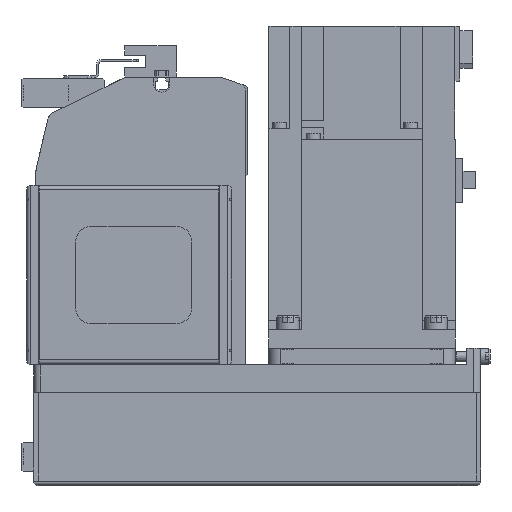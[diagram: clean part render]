
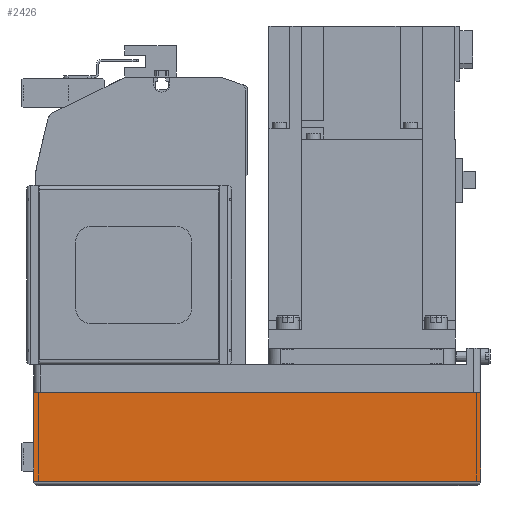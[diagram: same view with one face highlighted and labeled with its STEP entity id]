
A CAD part, left-side view. The second image highlights one B-rep face of the part: STEP entity #2426.
In plain terms, the highlighted planar face has unit normal (-1, 0, 0) as drawn and (0, 1, 0) by its records, which use the part's own axes.
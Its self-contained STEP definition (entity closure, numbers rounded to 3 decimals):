
#2426 = ADVANCED_FACE( '', ( #5383 ), #5384, .T. );
#5383 = FACE_OUTER_BOUND( '', #8877, .T. );
#5384 = PLANE( '', #8878 );
#8877 = EDGE_LOOP( '', ( #15884, #15885, #15886, #15887 ) );
#8878 = AXIS2_PLACEMENT_3D( '', #15888, #15889, #15890 );
#15884 = ORIENTED_EDGE( '', *, *, #22284, .F. );
#15885 = ORIENTED_EDGE( '', *, *, #22266, .F. );
#15886 = ORIENTED_EDGE( '', *, *, #21133, .T. );
#15887 = ORIENTED_EDGE( '', *, *, #21336, .T. );
#15888 = CARTESIAN_POINT( '', ( -192., 40., -50. ) );
#15889 = DIRECTION( '', ( 0., 1., 0. ) );
#15890 = DIRECTION( '', ( 0., 0., 1. ) );
#21133 = EDGE_CURVE( '', #25780, #25782, #25784, .T. );
#21336 = EDGE_CURVE( '', #25782, #26104, #26106, .T. );
#22266 = EDGE_CURVE( '', #25780, #23373, #27468, .T. );
#22284 = EDGE_CURVE( '', #23373, #26104, #27494, .T. );
#23373 = VERTEX_POINT( '', #28783 );
#25780 = VERTEX_POINT( '', #32338 );
#25782 = VERTEX_POINT( '', #32341 );
#25784 = LINE( '', #32344, #32345 );
#26104 = VERTEX_POINT( '', #33004 );
#26106 = LINE( '', #33007, #33008 );
#27468 = LINE( '', #35159, #35160 );
#27494 = LINE( '', #35196, #35197 );
#28783 = CARTESIAN_POINT( '', ( 0., 40., -50. ) );
#32338 = CARTESIAN_POINT( '', ( -192., 40., -50. ) );
#32341 = CARTESIAN_POINT( '', ( -192., 40., -12.1 ) );
#32344 = CARTESIAN_POINT( '', ( -192., 40., -50. ) );
#32345 = VECTOR( '', #38787, 1000. );
#33004 = CARTESIAN_POINT( '', ( 0., 40., -12.1 ) );
#33007 = CARTESIAN_POINT( '', ( -192., 40., -12.1 ) );
#33008 = VECTOR( '', #39028, 1000. );
#35159 = CARTESIAN_POINT( '', ( -192., 40., -50. ) );
#35160 = VECTOR( '', #40197, 1000. );
#35196 = CARTESIAN_POINT( '', ( 0., 40., -50. ) );
#35197 = VECTOR( '', #40221, 1000. );
#38787 = DIRECTION( '', ( 0., 0., 1. ) );
#39028 = DIRECTION( '', ( 1., 0., 0. ) );
#40197 = DIRECTION( '', ( 1., 0., 0. ) );
#40221 = DIRECTION( '', ( 0., 0., 1. ) );
